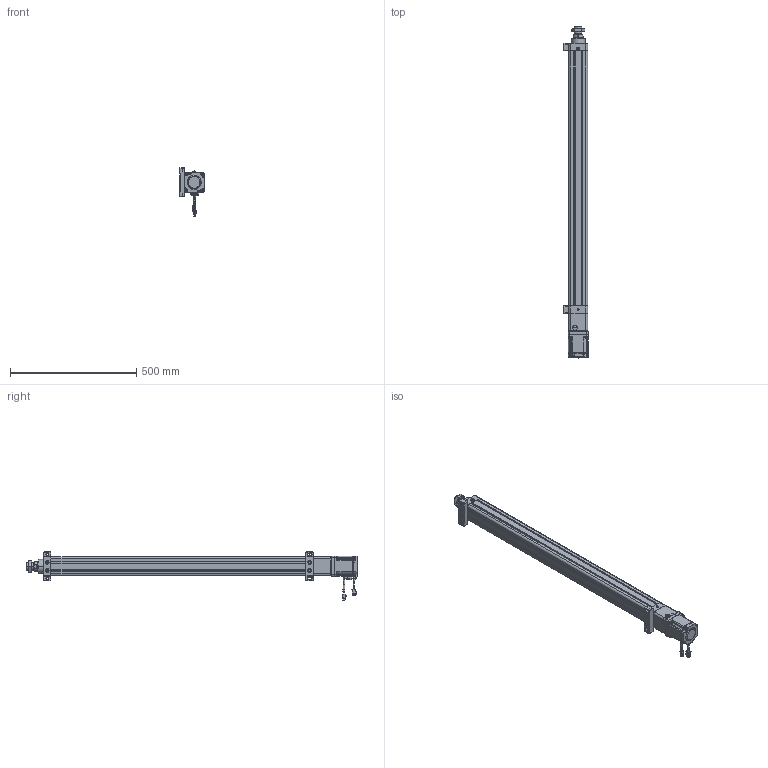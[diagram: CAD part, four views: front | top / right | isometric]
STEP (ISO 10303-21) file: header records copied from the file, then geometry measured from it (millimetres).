
FILE_DESCRIPTION((''),'2;1');
FILE_NAME('HE63-D-100-X1_ASM','2020-05-07T',('ASUS20200'),(''),'CREO PARAMETRIC BY PTC INC, 2014190','CREO PARAMETRIC BY PTC INC, 2014190','');
FILE_SCHEMA(('CONFIG_CONTROL_DESIGN'));
Length unit declared in the file: millimetre
Products named in the file (29): HE63-D-P-001-X1; HE63-D-P-002-X1; HE63-D-P-003-X1; LGLM-M8-22; HE63-D-009-X1; HE63-D-010-X1; M6X16; _MHMF082L1A2; _CABLE_MOTOR_BOTTOM_05; _CABLE_MOTOR_TOP_05; _MOTOR_CONNECTOR_2; _CABLE_BRAKE_BOTTOM_05; _CABLE_BRAKE_TOP_05; _MHMF_CONNECTOR_9_PIN_A6; MHMF082L1A2M2_1_ASM; SLM-01; YZ-M6X1; SKT-16; TD-6; JDB405030; JX6X6X25; HE63-D-P-005-X1; HE63-D-P-004-X1; HE63-D-P-008-X1; M6X25; HE63-P-015-X1; HE63-P-016-X1; M8X25; HE63-D-100-X1_ASM
Assembly tree (47 placements, depth 3):
  HE63-D-100-X1_ASM
    HE63-D-P-001-X1
    HE63-D-P-002-X1
    HE63-D-P-003-X1
    LGLM-M8-22  x8
    HE63-D-009-X1
    HE63-D-010-X1
    M6X16  x4
    MHMF082L1A2M2_1_ASM
      _MHMF082L1A2
      _CABLE_MOTOR_BOTTOM_05
      _CABLE_MOTOR_TOP_05
      _MOTOR_CONNECTOR_2
      _CABLE_BRAKE_BOTTOM_05
      _CABLE_BRAKE_TOP_05
      _MHMF_CONNECTOR_9_PIN_A6
    SLM-01
    YZ-M6X1
    SKT-16
    TD-6  x4
    JDB405030
    JX6X6X25
    HE63-D-P-005-X1
    HE63-D-P-004-X1
    HE63-D-P-008-X1
    M6X25  x4
    HE63-P-015-X1
    HE63-P-016-X1
    M8X25  x4
Bounding box: 97.5 x 1316.9 x 191.15 mm (x, y, z)
Volume: 3428292.2 mm3; surface area: 1029658.4 mm2
Topology: 46 solids, 78 shells, 2766 faces, 6749 edges, 4224 vertices
Faces by surface type: plane 1184, cylinder 842, cone 551, torus 142, sphere 44, bspline 3
Entity records: 69739 total; most frequent: CARTESIAN_POINT 13101, DIRECTION 12477, ORIENTED_EDGE 11110, EDGE_CURVE 5617, AXIS2_PLACEMENT_3D 4661, VERTEX_POINT 3545, VECTOR 3155, LINE 3155
